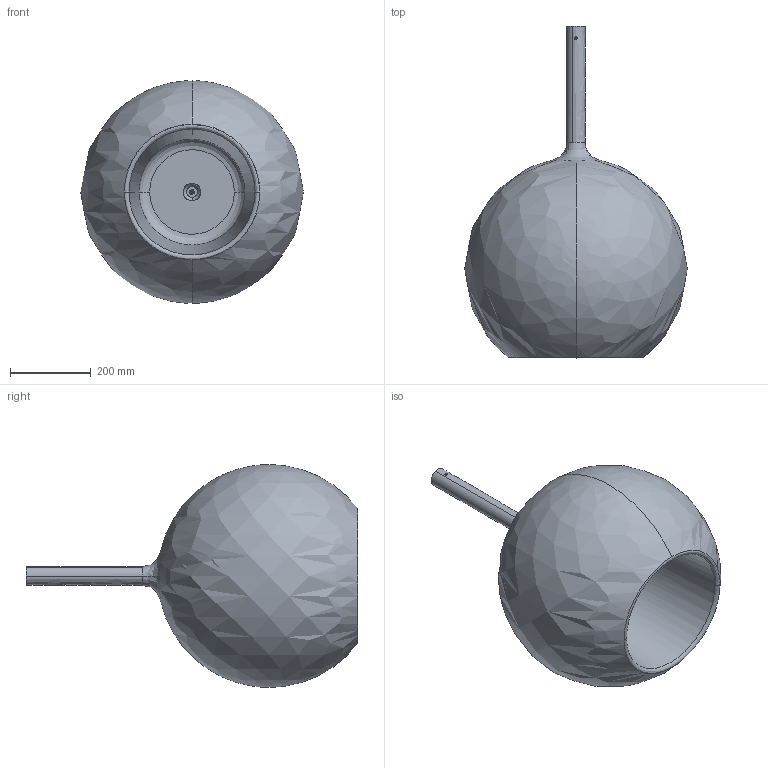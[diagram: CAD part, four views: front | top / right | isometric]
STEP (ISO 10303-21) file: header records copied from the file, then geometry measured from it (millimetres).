
FILE_DESCRIPTION(/* description */ (''),/* implementation_level */ '2;1');
FILE_NAME(/* name */ '0811-2~2',/* time_stamp */ '2020-04-29T17:35:59+02:00',/* author */ (''),/* organization */ (''),/* preprocessor_version */ 'ST-DEVELOPER v16.5',/* originating_system */ '',/* authorisation */ '');
FILE_SCHEMA (('AUTOMOTIVE_DESIGN'));
Length unit declared in the file: millimetre
Products named in the file (7): Document; MET.000236; MIN.005137; MET.005635; MIN.005252; VET.005036; PLA.005088
Assembly tree (8 placements, depth 2):
  Document
    MET.000236
    MIN.005137  x2
    MET.005635
    MIN.005252  x2
    VET.005036
    PLA.005088
Bounding box: 550 x 819.75 x 550 mm (x, y, z)
Volume: 3925338.3 mm3; surface area: 2496883.7 mm2
Topology: 9 solids, 9 shells, 153 faces, 435 edges, 294 vertices
Faces by surface type: bspline 108, plane 45
Entity records: 6398 total; most frequent: CARTESIAN_POINT 4062, ORIENTED_EDGE 736, EDGE_CURVE 368, VERTEX_POINT 256, EDGE_LOOP 158, B_SPLINE_CURVE_WITH_KNOTS 136, ADVANCED_FACE 131, FACE_OUTER_BOUND 131
